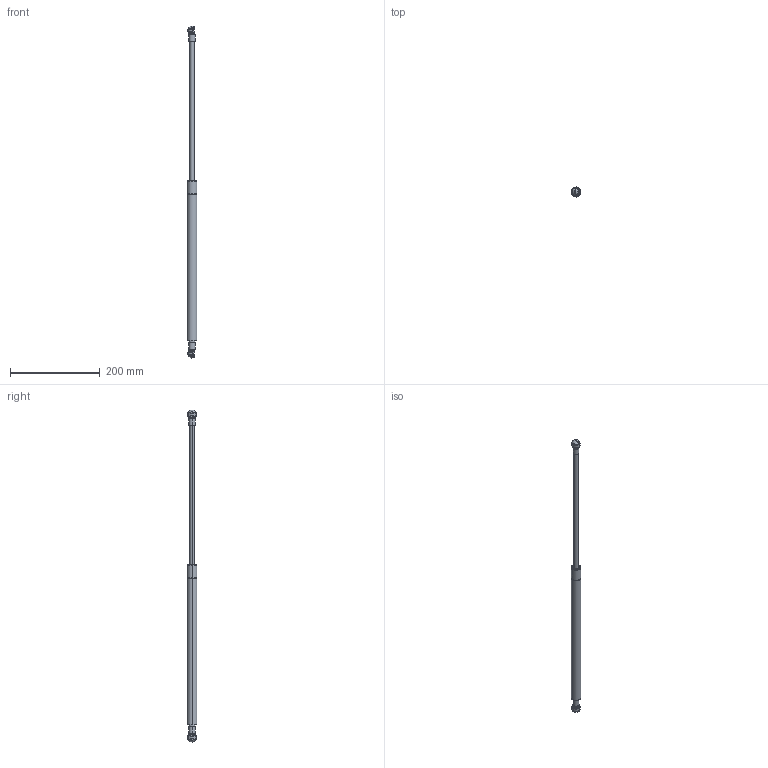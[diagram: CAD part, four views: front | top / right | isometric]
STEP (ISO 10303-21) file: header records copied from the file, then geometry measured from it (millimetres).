
FILE_DESCRIPTION (( 'STEP AP214' ), '1' );
FILE_NAME ('GS10-1200MD13.STEP', '2011-03-30T20:40:01', ( 'user' ), ( '' ), 'SwSTEP 2.0', 'SolidWorks 2011', '' );
FILE_SCHEMA (( 'AUTOMOTIVE_DESIGN' ));
Length unit declared in the file: millimetre
Products named in the file (5): d_socket; GS10-1200MD13-NC; GS10-1200MD13-SHAFT; GS10-1200MD13-TUBE; GS10-1200MD13
Assembly tree (5 placements, depth 3):
  GS10-1200MD13
    d_socket  x2
    GS10-1200MD13-NC
      GS10-1200MD13-TUBE
      GS10-1200MD13-SHAFT
Bounding box: 22 x 22 x 740 mm (x, y, z)
Volume: 143902.6 mm3; surface area: 51742.7 mm2
Topology: 4 solids, 6 shells, 179 faces, 520 edges, 340 vertices
Faces by surface type: plane 67, cylinder 66, cone 20, sphere 16, torus 10
Entity records: 4460 total; most frequent: CARTESIAN_POINT 779, DIRECTION 601, ORIENTED_EDGE 556, EDGE_CURVE 278, AXIS2_PLACEMENT_3D 248, VERTEX_POINT 182, CIRCLE 137, EDGE_LOOP 110
